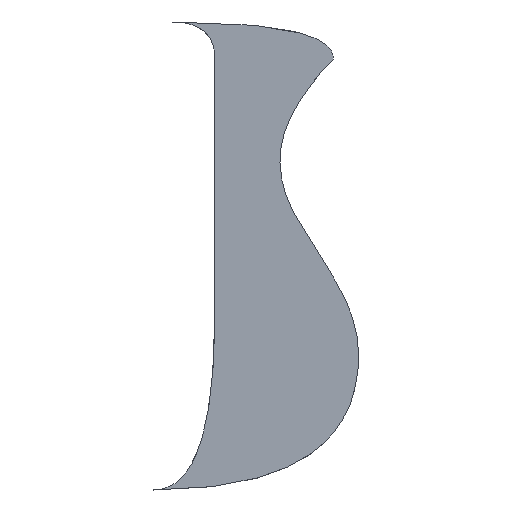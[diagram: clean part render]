
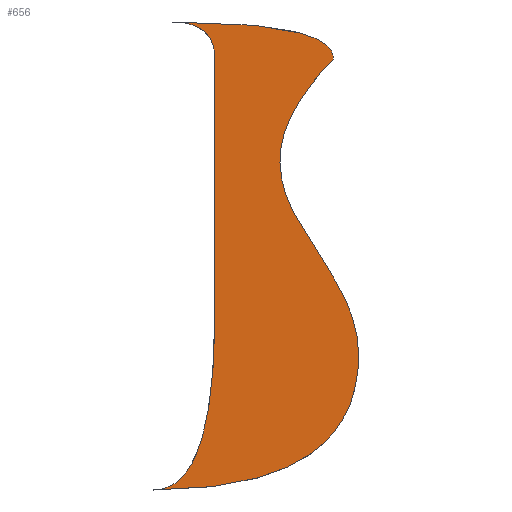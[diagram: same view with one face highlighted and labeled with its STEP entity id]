
A CAD part, top view. The second image highlights one B-rep face of the part: STEP entity #656.
In plain terms, the highlighted planar face has unit normal (0, 0, 1).
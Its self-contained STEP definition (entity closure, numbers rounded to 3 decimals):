
#24 = VERTEX_POINT('',#25);
#25 = CARTESIAN_POINT('',(155.,-201.3,15.));
#32 = SURFACE_OF_LINEAR_EXTRUSION('',#33,#38);
#33 = B_SPLINE_CURVE_WITH_KNOTS('',3,(#34,#35,#36,#37),.UNSPECIFIED.,.F.
  ,.F.,(4,4),(0.,1.),.PIECEWISE_BEZIER_KNOTS.);
#34 = CARTESIAN_POINT('',(155.,-201.3,0.));
#35 = CARTESIAN_POINT('',(155.,-127.3,0.));
#36 = CARTESIAN_POINT('',(46.667,-92.5,0.));
#37 = CARTESIAN_POINT('',(137.883,0.,0.));
#38 = VECTOR('',#39,1.);
#39 = DIRECTION('',(-0.,-0.,-1.));
#47 = SURFACE_OF_LINEAR_EXTRUSION('',#48,#52);
#48 = B_SPLINE_CURVE_WITH_KNOTS('',2,(#49,#50,#51),.UNSPECIFIED.,.F.,.F.
  ,(3,3),(0.,1.),.PIECEWISE_BEZIER_KNOTS.);
#49 = CARTESIAN_POINT('',(15.,-293.8,0.));
#50 = CARTESIAN_POINT('',(155.,-293.8,0.));
#51 = CARTESIAN_POINT('',(155.,-201.3,0.));
#52 = VECTOR('',#53,1.);
#53 = DIRECTION('',(-0.,-0.,-1.));
#61 = EDGE_CURVE('',#24,#62,#64,.T.);
#62 = VERTEX_POINT('',#63);
#63 = CARTESIAN_POINT('',(137.883,0.,15.));
#64 = SURFACE_CURVE('',#65,(#70,#77),.PCURVE_S1.);
#65 = B_SPLINE_CURVE_WITH_KNOTS('',3,(#66,#67,#68,#69),.UNSPECIFIED.,.F.
  ,.F.,(4,4),(0.,1.),.PIECEWISE_BEZIER_KNOTS.);
#66 = CARTESIAN_POINT('',(155.,-201.3,15.));
#67 = CARTESIAN_POINT('',(155.,-127.3,15.));
#68 = CARTESIAN_POINT('',(46.667,-92.5,15.));
#69 = CARTESIAN_POINT('',(137.883,0.,15.));
#70 = PCURVE('',#32,#71);
#71 = DEFINITIONAL_REPRESENTATION('',(#72),#76);
#72 = LINE('',#73,#74);
#73 = CARTESIAN_POINT('',(0.,-15.));
#74 = VECTOR('',#75,1.);
#75 = DIRECTION('',(1.,0.));
#76 = ( GEOMETRIC_REPRESENTATION_CONTEXT(2) 
PARAMETRIC_REPRESENTATION_CONTEXT() REPRESENTATION_CONTEXT('2D SPACE',''
  ) );
#77 = PCURVE('',#78,#83);
#78 = PLANE('',#79);
#79 = AXIS2_PLACEMENT_3D('',#80,#81,#82);
#80 = CARTESIAN_POINT('',(84.146,-131.642,15.));
#81 = DIRECTION('',(0.,0.,1.));
#82 = DIRECTION('',(1.,0.,0.));
#83 = DEFINITIONAL_REPRESENTATION('',(#84),#89);
#84 = B_SPLINE_CURVE_WITH_KNOTS('',3,(#85,#86,#87,#88),.UNSPECIFIED.,.F.
  ,.F.,(4,4),(0.,1.),.PIECEWISE_BEZIER_KNOTS.);
#85 = CARTESIAN_POINT('',(70.854,-69.658));
#86 = CARTESIAN_POINT('',(70.854,4.342));
#87 = CARTESIAN_POINT('',(-37.479,39.142));
#88 = CARTESIAN_POINT('',(53.738,131.642));
#89 = ( GEOMETRIC_REPRESENTATION_CONTEXT(2) 
PARAMETRIC_REPRESENTATION_CONTEXT() REPRESENTATION_CONTEXT('2D SPACE',''
  ) );
#107 = SURFACE_OF_LINEAR_EXTRUSION('',#108,#112);
#108 = B_SPLINE_CURVE_WITH_KNOTS('',2,(#109,#110,#111),.UNSPECIFIED.,.F.
  ,.F.,(3,3),(0.,1.),.PIECEWISE_BEZIER_KNOTS.);
#109 = CARTESIAN_POINT('',(27.883,25.4,0.));
#110 = CARTESIAN_POINT('',(137.883,25.4,0.));
#111 = CARTESIAN_POINT('',(137.883,0.,0.));
#112 = VECTOR('',#113,1.);
#113 = DIRECTION('',(-0.,-0.,-1.));
#155 = VERTEX_POINT('',#156);
#156 = CARTESIAN_POINT('',(15.,-293.8,15.));
#170 = SURFACE_OF_LINEAR_EXTRUSION('',#171,#175);
#171 = B_SPLINE_CURVE_WITH_KNOTS('',2,(#172,#173,#174),.UNSPECIFIED.,.F.
  ,.F.,(3,3),(0.,1.),.PIECEWISE_BEZIER_KNOTS.);
#172 = CARTESIAN_POINT('',(15.,-293.8,0.));
#173 = CARTESIAN_POINT('',(57.,-293.8,0.));
#174 = CARTESIAN_POINT('',(57.,-172.999,0.));
#175 = VECTOR('',#176,1.);
#176 = DIRECTION('',(-0.,-0.,-1.));
#184 = EDGE_CURVE('',#155,#24,#185,.T.);
#185 = SURFACE_CURVE('',#186,(#190,#197),.PCURVE_S1.);
#186 = B_SPLINE_CURVE_WITH_KNOTS('',2,(#187,#188,#189),.UNSPECIFIED.,.F.
  ,.F.,(3,3),(0.,1.),.PIECEWISE_BEZIER_KNOTS.);
#187 = CARTESIAN_POINT('',(15.,-293.8,15.));
#188 = CARTESIAN_POINT('',(155.,-293.8,15.));
#189 = CARTESIAN_POINT('',(155.,-201.3,15.));
#190 = PCURVE('',#47,#191);
#191 = DEFINITIONAL_REPRESENTATION('',(#192),#196);
#192 = LINE('',#193,#194);
#193 = CARTESIAN_POINT('',(0.,-15.));
#194 = VECTOR('',#195,1.);
#195 = DIRECTION('',(1.,0.));
#196 = ( GEOMETRIC_REPRESENTATION_CONTEXT(2) 
PARAMETRIC_REPRESENTATION_CONTEXT() REPRESENTATION_CONTEXT('2D SPACE',''
  ) );
#197 = PCURVE('',#78,#198);
#198 = DEFINITIONAL_REPRESENTATION('',(#199),#203);
#199 = B_SPLINE_CURVE_WITH_KNOTS('',2,(#200,#201,#202),.UNSPECIFIED.,.F.
  ,.F.,(3,3),(0.,1.),.PIECEWISE_BEZIER_KNOTS.);
#200 = CARTESIAN_POINT('',(-69.146,-162.158));
#201 = CARTESIAN_POINT('',(70.854,-162.158));
#202 = CARTESIAN_POINT('',(70.854,-69.658));
#203 = ( GEOMETRIC_REPRESENTATION_CONTEXT(2) 
PARAMETRIC_REPRESENTATION_CONTEXT() REPRESENTATION_CONTEXT('2D SPACE',''
  ) );
#233 = VERTEX_POINT('',#234);
#234 = CARTESIAN_POINT('',(27.883,25.4,15.));
#248 = SURFACE_OF_LINEAR_EXTRUSION('',#249,#253);
#249 = B_SPLINE_CURVE_WITH_KNOTS('',2,(#250,#251,#252),.UNSPECIFIED.,.F.
  ,.F.,(3,3),(0.,1.),.PIECEWISE_BEZIER_KNOTS.);
#250 = CARTESIAN_POINT('',(27.883,25.4,0.));
#251 = CARTESIAN_POINT('',(57.,25.4,0.));
#252 = CARTESIAN_POINT('',(57.,0.,0.));
#253 = VECTOR('',#254,1.);
#254 = DIRECTION('',(-0.,-0.,-1.));
#262 = EDGE_CURVE('',#233,#62,#263,.T.);
#263 = SURFACE_CURVE('',#264,(#268,#275),.PCURVE_S1.);
#264 = B_SPLINE_CURVE_WITH_KNOTS('',2,(#265,#266,#267),.UNSPECIFIED.,.F.
  ,.F.,(3,3),(0.,1.),.PIECEWISE_BEZIER_KNOTS.);
#265 = CARTESIAN_POINT('',(27.883,25.4,15.));
#266 = CARTESIAN_POINT('',(137.883,25.4,15.));
#267 = CARTESIAN_POINT('',(137.883,0.,15.));
#268 = PCURVE('',#107,#269);
#269 = DEFINITIONAL_REPRESENTATION('',(#270),#274);
#270 = LINE('',#271,#272);
#271 = CARTESIAN_POINT('',(0.,-15.));
#272 = VECTOR('',#273,1.);
#273 = DIRECTION('',(1.,0.));
#274 = ( GEOMETRIC_REPRESENTATION_CONTEXT(2) 
PARAMETRIC_REPRESENTATION_CONTEXT() REPRESENTATION_CONTEXT('2D SPACE',''
  ) );
#275 = PCURVE('',#78,#276);
#276 = DEFINITIONAL_REPRESENTATION('',(#277),#281);
#277 = B_SPLINE_CURVE_WITH_KNOTS('',2,(#278,#279,#280),.UNSPECIFIED.,.F.
  ,.F.,(3,3),(0.,1.),.PIECEWISE_BEZIER_KNOTS.);
#278 = CARTESIAN_POINT('',(-56.262,157.042));
#279 = CARTESIAN_POINT('',(53.738,157.042));
#280 = CARTESIAN_POINT('',(53.738,131.642));
#281 = ( GEOMETRIC_REPRESENTATION_CONTEXT(2) 
PARAMETRIC_REPRESENTATION_CONTEXT() REPRESENTATION_CONTEXT('2D SPACE',''
  ) );
#350 = PLANE('',#351);
#351 = AXIS2_PLACEMENT_3D('',#352,#353,#354);
#352 = CARTESIAN_POINT('',(57.,0.,0.));
#353 = DIRECTION('',(1.,0.,0.));
#354 = DIRECTION('',(0.,-1.,0.));
#378 = PLANE('',#379);
#379 = AXIS2_PLACEMENT_3D('',#380,#381,#382);
#380 = CARTESIAN_POINT('',(57.,-3.,0.));
#381 = DIRECTION('',(1.,0.,0.));
#382 = DIRECTION('',(0.,-1.,0.));
#656 = ADVANCED_FACE('',(#657),#78,.T.);
#657 = FACE_BOUND('',#658,.T.);
#658 = EDGE_LOOP('',(#659,#660,#661,#684,#707,#730,#751));
#659 = ORIENTED_EDGE('',*,*,#61,.T.);
#660 = ORIENTED_EDGE('',*,*,#262,.F.);
#661 = ORIENTED_EDGE('',*,*,#662,.T.);
#662 = EDGE_CURVE('',#233,#663,#665,.T.);
#663 = VERTEX_POINT('',#664);
#664 = CARTESIAN_POINT('',(57.,0.,15.));
#665 = SURFACE_CURVE('',#666,(#670,#677),.PCURVE_S1.);
#666 = B_SPLINE_CURVE_WITH_KNOTS('',2,(#667,#668,#669),.UNSPECIFIED.,.F.
  ,.F.,(3,3),(0.,1.),.PIECEWISE_BEZIER_KNOTS.);
#667 = CARTESIAN_POINT('',(27.883,25.4,15.));
#668 = CARTESIAN_POINT('',(57.,25.4,15.));
#669 = CARTESIAN_POINT('',(57.,0.,15.));
#670 = PCURVE('',#78,#671);
#671 = DEFINITIONAL_REPRESENTATION('',(#672),#676);
#672 = B_SPLINE_CURVE_WITH_KNOTS('',2,(#673,#674,#675),.UNSPECIFIED.,.F.
  ,.F.,(3,3),(0.,1.),.PIECEWISE_BEZIER_KNOTS.);
#673 = CARTESIAN_POINT('',(-56.262,157.042));
#674 = CARTESIAN_POINT('',(-27.146,157.042));
#675 = CARTESIAN_POINT('',(-27.146,131.642));
#676 = ( GEOMETRIC_REPRESENTATION_CONTEXT(2) 
PARAMETRIC_REPRESENTATION_CONTEXT() REPRESENTATION_CONTEXT('2D SPACE',''
  ) );
#677 = PCURVE('',#248,#678);
#678 = DEFINITIONAL_REPRESENTATION('',(#679),#683);
#679 = LINE('',#680,#681);
#680 = CARTESIAN_POINT('',(0.,-15.));
#681 = VECTOR('',#682,1.);
#682 = DIRECTION('',(1.,0.));
#683 = ( GEOMETRIC_REPRESENTATION_CONTEXT(2) 
PARAMETRIC_REPRESENTATION_CONTEXT() REPRESENTATION_CONTEXT('2D SPACE',''
  ) );
#684 = ORIENTED_EDGE('',*,*,#685,.T.);
#685 = EDGE_CURVE('',#663,#686,#688,.T.);
#686 = VERTEX_POINT('',#687);
#687 = CARTESIAN_POINT('',(57.,-3.,15.));
#688 = SURFACE_CURVE('',#689,(#693,#700),.PCURVE_S1.);
#689 = LINE('',#690,#691);
#690 = CARTESIAN_POINT('',(57.,0.,15.));
#691 = VECTOR('',#692,1.);
#692 = DIRECTION('',(0.,-1.,0.));
#693 = PCURVE('',#78,#694);
#694 = DEFINITIONAL_REPRESENTATION('',(#695),#699);
#695 = LINE('',#696,#697);
#696 = CARTESIAN_POINT('',(-27.146,131.642));
#697 = VECTOR('',#698,1.);
#698 = DIRECTION('',(0.,-1.));
#699 = ( GEOMETRIC_REPRESENTATION_CONTEXT(2) 
PARAMETRIC_REPRESENTATION_CONTEXT() REPRESENTATION_CONTEXT('2D SPACE',''
  ) );
#700 = PCURVE('',#350,#701);
#701 = DEFINITIONAL_REPRESENTATION('',(#702),#706);
#702 = LINE('',#703,#704);
#703 = CARTESIAN_POINT('',(0.,-15.));
#704 = VECTOR('',#705,1.);
#705 = DIRECTION('',(1.,0.));
#706 = ( GEOMETRIC_REPRESENTATION_CONTEXT(2) 
PARAMETRIC_REPRESENTATION_CONTEXT() REPRESENTATION_CONTEXT('2D SPACE',''
  ) );
#707 = ORIENTED_EDGE('',*,*,#708,.T.);
#708 = EDGE_CURVE('',#686,#709,#711,.T.);
#709 = VERTEX_POINT('',#710);
#710 = CARTESIAN_POINT('',(57.,-172.999,15.));
#711 = SURFACE_CURVE('',#712,(#716,#723),.PCURVE_S1.);
#712 = LINE('',#713,#714);
#713 = CARTESIAN_POINT('',(57.,-3.,15.));
#714 = VECTOR('',#715,1.);
#715 = DIRECTION('',(0.,-1.,0.));
#716 = PCURVE('',#78,#717);
#717 = DEFINITIONAL_REPRESENTATION('',(#718),#722);
#718 = LINE('',#719,#720);
#719 = CARTESIAN_POINT('',(-27.146,128.642));
#720 = VECTOR('',#721,1.);
#721 = DIRECTION('',(0.,-1.));
#722 = ( GEOMETRIC_REPRESENTATION_CONTEXT(2) 
PARAMETRIC_REPRESENTATION_CONTEXT() REPRESENTATION_CONTEXT('2D SPACE',''
  ) );
#723 = PCURVE('',#378,#724);
#724 = DEFINITIONAL_REPRESENTATION('',(#725),#729);
#725 = LINE('',#726,#727);
#726 = CARTESIAN_POINT('',(0.,-15.));
#727 = VECTOR('',#728,1.);
#728 = DIRECTION('',(1.,0.));
#729 = ( GEOMETRIC_REPRESENTATION_CONTEXT(2) 
PARAMETRIC_REPRESENTATION_CONTEXT() REPRESENTATION_CONTEXT('2D SPACE',''
  ) );
#730 = ORIENTED_EDGE('',*,*,#731,.F.);
#731 = EDGE_CURVE('',#155,#709,#732,.T.);
#732 = SURFACE_CURVE('',#733,(#737,#744),.PCURVE_S1.);
#733 = B_SPLINE_CURVE_WITH_KNOTS('',2,(#734,#735,#736),.UNSPECIFIED.,.F.
  ,.F.,(3,3),(0.,1.),.PIECEWISE_BEZIER_KNOTS.);
#734 = CARTESIAN_POINT('',(15.,-293.8,15.));
#735 = CARTESIAN_POINT('',(57.,-293.8,15.));
#736 = CARTESIAN_POINT('',(57.,-172.999,15.));
#737 = PCURVE('',#78,#738);
#738 = DEFINITIONAL_REPRESENTATION('',(#739),#743);
#739 = B_SPLINE_CURVE_WITH_KNOTS('',2,(#740,#741,#742),.UNSPECIFIED.,.F.
  ,.F.,(3,3),(0.,1.),.PIECEWISE_BEZIER_KNOTS.);
#740 = CARTESIAN_POINT('',(-69.146,-162.158));
#741 = CARTESIAN_POINT('',(-27.146,-162.158));
#742 = CARTESIAN_POINT('',(-27.146,-41.357));
#743 = ( GEOMETRIC_REPRESENTATION_CONTEXT(2) 
PARAMETRIC_REPRESENTATION_CONTEXT() REPRESENTATION_CONTEXT('2D SPACE',''
  ) );
#744 = PCURVE('',#170,#745);
#745 = DEFINITIONAL_REPRESENTATION('',(#746),#750);
#746 = LINE('',#747,#748);
#747 = CARTESIAN_POINT('',(0.,-15.));
#748 = VECTOR('',#749,1.);
#749 = DIRECTION('',(1.,0.));
#750 = ( GEOMETRIC_REPRESENTATION_CONTEXT(2) 
PARAMETRIC_REPRESENTATION_CONTEXT() REPRESENTATION_CONTEXT('2D SPACE',''
  ) );
#751 = ORIENTED_EDGE('',*,*,#184,.T.);
